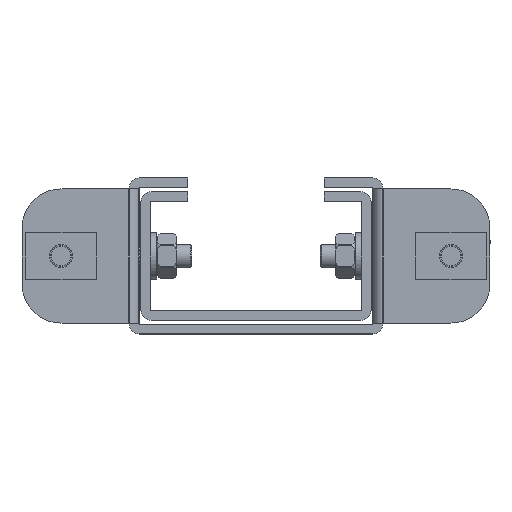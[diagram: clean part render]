
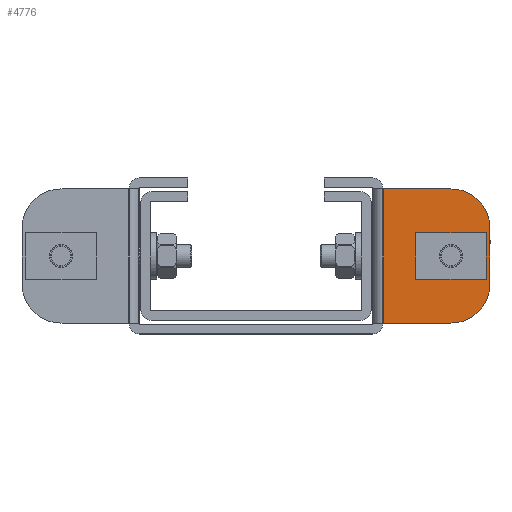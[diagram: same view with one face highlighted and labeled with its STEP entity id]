
A CAD part, left-side view. The second image highlights one B-rep face of the part: STEP entity #4776.
In plain terms, the highlighted planar face has unit normal (-1, 0, 0).
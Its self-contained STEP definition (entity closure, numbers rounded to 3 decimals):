
#235=PLANE('',#5293);
#374=LINE('',#7207,#788);
#379=LINE('',#7216,#793);
#380=LINE('',#7218,#794);
#381=LINE('',#7220,#795);
#788=VECTOR('',#5811,1000.);
#793=VECTOR('',#5820,1000.);
#794=VECTOR('',#5821,1000.);
#795=VECTOR('',#5822,1000.);
#1225=ORIENTED_EDGE('',*,*,#2587,.T.);
#1226=ORIENTED_EDGE('',*,*,#2566,.T.);
#1227=ORIENTED_EDGE('',*,*,#2582,.T.);
#1228=ORIENTED_EDGE('',*,*,#2562,.T.);
#1229=ORIENTED_EDGE('',*,*,#2588,.T.);
#1230=ORIENTED_EDGE('',*,*,#2589,.F.);
#1231=ORIENTED_EDGE('',*,*,#2580,.F.);
#2562=EDGE_CURVE('',#3246,#3247,#3714,.T.);
#2566=EDGE_CURVE('',#3250,#3251,#3716,.T.);
#2580=EDGE_CURVE('',#3264,#3264,#3724,.T.);
#2582=EDGE_CURVE('',#3251,#3246,#374,.T.);
#2587=EDGE_CURVE('',#3268,#3250,#379,.T.);
#2588=EDGE_CURVE('',#3247,#3269,#380,.T.);
#2589=EDGE_CURVE('',#3268,#3269,#381,.T.);
#3246=VERTEX_POINT('',#7162);
#3247=VERTEX_POINT('',#7163);
#3250=VERTEX_POINT('',#7171);
#3251=VERTEX_POINT('',#7172);
#3264=VERTEX_POINT('',#7203);
#3268=VERTEX_POINT('',#7217);
#3269=VERTEX_POINT('',#7219);
#3714=CIRCLE('',#5274,10.);
#3716=CIRCLE('',#5277,10.);
#3724=CIRCLE('',#5289,4.25);
#3927=EDGE_LOOP('',(#1225,#1226,#1227,#1228,#1229,#1230));
#3928=EDGE_LOOP('',(#1231));
#4299=FACE_BOUND('',#3927,.T.);
#4300=FACE_BOUND('',#3928,.T.);
#4776=ADVANCED_FACE('',(#4299,#4300),#235,.F.);
#5274=AXIS2_PLACEMENT_3D('',#7161,#5767,#5768);
#5277=AXIS2_PLACEMENT_3D('',#7170,#5775,#5776);
#5289=AXIS2_PLACEMENT_3D('',#7202,#5805,#5806);
#5293=AXIS2_PLACEMENT_3D('',#7215,#5818,#5819);
#5767=DIRECTION('',(-1.,0.,0.));
#5768=DIRECTION('',(0.,0.,-1.));
#5775=DIRECTION('',(-1.,0.,0.));
#5776=DIRECTION('',(0.,0.,-1.));
#5805=DIRECTION('',(-1.,0.,0.));
#5806=DIRECTION('',(0.,0.,-1.));
#5811=DIRECTION('',(0.,0.,1.));
#5818=DIRECTION('',(1.,0.,0.));
#5819=DIRECTION('',(0.,0.,-1.));
#5820=DIRECTION('',(0.,-1.,0.));
#5821=DIRECTION('',(0.,1.,0.));
#5822=DIRECTION('',(0.,0.,1.));
#7161=CARTESIAN_POINT('',(-2.8,-50.,24.7));
#7162=CARTESIAN_POINT('',(-2.8,-60.,24.7));
#7163=CARTESIAN_POINT('',(-2.8,-50.,34.7));
#7170=CARTESIAN_POINT('',(-2.8,-50.,10.3));
#7171=CARTESIAN_POINT('',(-2.8,-50.,0.3));
#7172=CARTESIAN_POINT('',(-2.8,-60.,10.3));
#7202=CARTESIAN_POINT('',(-2.8,-50.,17.5));
#7203=CARTESIAN_POINT('',(-2.8,-50.,13.25));
#7207=CARTESIAN_POINT('',(-2.8,-60.,0.));
#7215=CARTESIAN_POINT('',(-2.8,0.,0.));
#7216=CARTESIAN_POINT('',(-2.8,0.,0.3));
#7217=CARTESIAN_POINT('',(-2.8,-32.6,0.3));
#7218=CARTESIAN_POINT('',(-2.8,0.,34.7));
#7219=CARTESIAN_POINT('',(-2.8,-32.6,34.7));
#7220=CARTESIAN_POINT('',(-2.8,-32.6,0.3));
